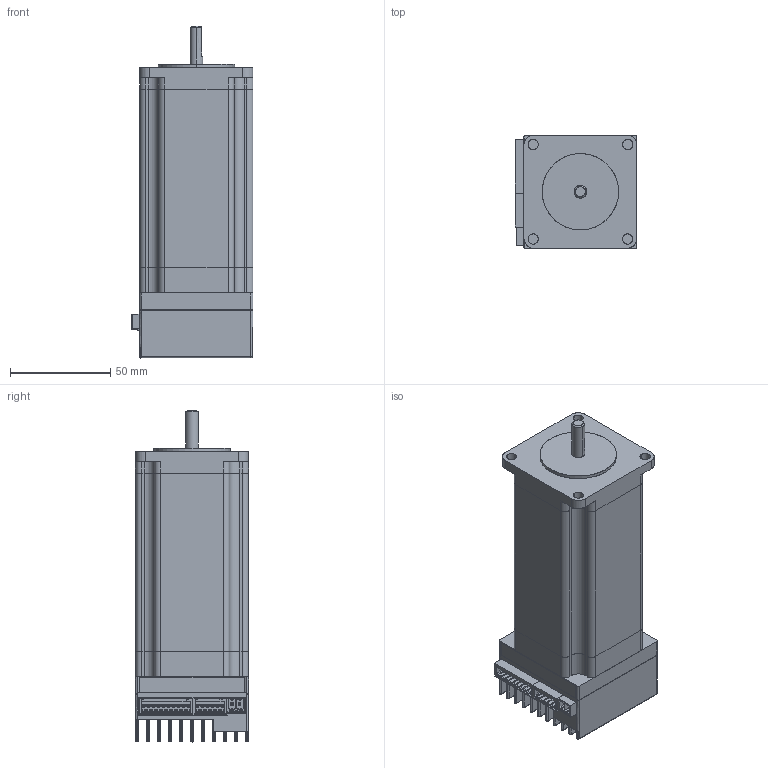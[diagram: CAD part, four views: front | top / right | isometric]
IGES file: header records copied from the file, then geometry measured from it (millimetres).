
Start section: SolidWorks IGES file using analytic representation for surfaces
Global section: file name: C:\Work\Sevotronix\NEMA 23 controller\CAD\2nd version\Drawings and model for marketing\stepIM_IST-23L12CO10.IGS; native system: SolidWorks 2013; preprocessor: SolidWorks 2013; author: owner; date: 150511.004016; units: millimetre
Bounding box: 60.8 x 56.4 x 165.6 mm (x, y, z)
Surface area: 86654.3 mm2 (no closed solid volume)
Topology: 0 solids, 0 shells, 1850 faces, 16685 edges, 16681 vertices
Faces by surface type: bspline 1244, revolution 606
